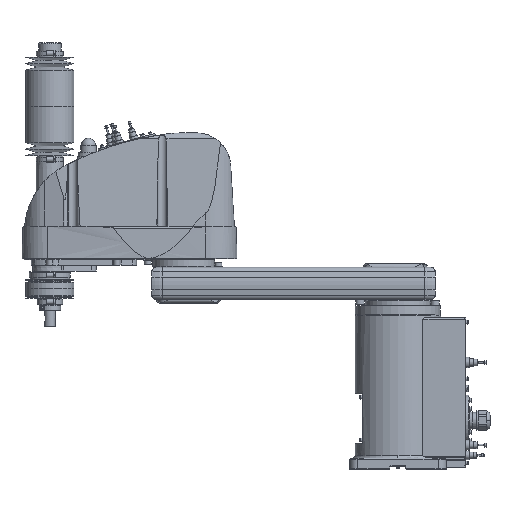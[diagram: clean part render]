
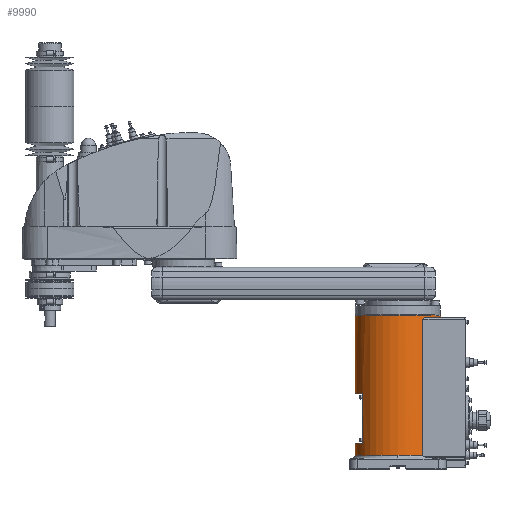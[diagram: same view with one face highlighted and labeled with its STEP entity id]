
A CAD part, top view. The second image highlights one B-rep face of the part: STEP entity #9990.
In plain terms, the highlighted cylindrical face has radius 80 mm (diameter 160 mm), a partial arc.
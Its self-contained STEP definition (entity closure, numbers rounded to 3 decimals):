
#9852 = EDGE_CURVE( '', #17316, #16982, #27794, .T. );
#9870 = EDGE_CURVE( '', #17790, #12426, #27813, .T. );
#9990 = ADVANCED_FACE( '', ( #27945 ), #27946, .T. );
#11948 = VERTEX_POINT( '', #30130 );
#12426 = VERTEX_POINT( '', #30674 );
#12436 = EDGE_CURVE( '', #17844, #26564, #30687, .T. );
#14260 = EDGE_CURVE( '', #22440, #17790, #32719, .T. );
#15766 = EDGE_CURVE( '', #16766, #20496, #34426, .T. );
#16766 = VERTEX_POINT( '', #35557 );
#16982 = VERTEX_POINT( '', #35790 );
#17316 = VERTEX_POINT( '', #36159 );
#17458 = VERTEX_POINT( '', #36319 );
#17790 = VERTEX_POINT( '', #36677 );
#17804 = EDGE_CURVE( '', #11948, #24092, #36692, .T. );
#17844 = VERTEX_POINT( '', #36737 );
#19134 = EDGE_CURVE( '', #17316, #11948, #38177, .T. );
#20074 = EDGE_CURVE( '', #24092, #17458, #39223, .T. );
#20496 = VERTEX_POINT( '', #39697 );
#21316 = EDGE_CURVE( '', #16766, #16982, #40616, .T. );
#22440 = VERTEX_POINT( '', #41890 );
#24092 = VERTEX_POINT( '', #43743 );
#25214 = EDGE_CURVE( '', #22440, #17844, #44986, .T. );
#25444 = EDGE_CURVE( '', #26564, #20496, #45239, .T. );
#26330 = EDGE_CURVE( '', #12426, #17458, #46203, .T. );
#26564 = VERTEX_POINT( '', #46468 );
#27794 = LINE( '', #48183, #48184 );
#27813 = CIRCLE( '', #48208, 80. );
#27945 = FACE_OUTER_BOUND( '', #48384, .T. );
#27946 = CYLINDRICAL_SURFACE( '', #48385, 80. );
#30130 = CARTESIAN_POINT( '', ( -66., -176., 45.211 ) );
#30674 = CARTESIAN_POINT( '', ( -80., -291.5, 0. ) );
#30687 = B_SPLINE_CURVE_WITH_KNOTS( '', 3, ( #52687, #52688, #52689, #52690, #52691, #52692, #52693, #52694, #52695, #52696, #52697, #52698, #52699, #52700, #52701, #52702 ), .UNSPECIFIED., .F., .F., ( 4, 2, 2, 2, 2, 2, 2, 4 ), ( 11.856, 12.522, 13.187, 13.853, 14.518, 16.226, 17.08, 17.933 ), .UNSPECIFIED. );
#32719 = CIRCLE( '', #55851, 80. );
#34426 = LINE( '', #58471, #58472 );
#35557 = CARTESIAN_POINT( '', ( 80., -30., 0. ) );
#35790 = CARTESIAN_POINT( '', ( -80., -30., 0. ) );
#36159 = CARTESIAN_POINT( '', ( -80., -176., 0. ) );
#36319 = CARTESIAN_POINT( '', ( -80., -269., 0. ) );
#36677 = CARTESIAN_POINT( '', ( 0., -291.5, 80. ) );
#36692 = LINE( '', #61757, #61758 );
#36737 = CARTESIAN_POINT( '', ( 46.637, -37.5, 65. ) );
#38177 = CIRCLE( '', #64245, 80. );
#39223 = CIRCLE( '', #65767, 80. );
#39697 = CARTESIAN_POINT( '', ( 80., -34.5, 0. ) );
#40616 = CIRCLE( '', #67989, 80. );
#41890 = CARTESIAN_POINT( '', ( 46.637, -291.5, 65. ) );
#43743 = CARTESIAN_POINT( '', ( -66., -269., 45.211 ) );
#44986 = LINE( '', #74829, #74830 );
#45239 = CIRCLE( '', #75231, 80. );
#46203 = LINE( '', #76771, #76772 );
#46468 = CARTESIAN_POINT( '', ( 50.557, -34.5, 62. ) );
#48183 = CARTESIAN_POINT( '', ( -80., -160.75, 0. ) );
#48184 = VECTOR( '', #78652, 1. );
#48208 = AXIS2_PLACEMENT_3D( '', #78663, #78664, #78665 );
#48384 = EDGE_LOOP( '', ( #78800, #78801, #78802, #78803, #78804, #78805, #78806, #78807, #78808, #78809, #78810, #78811 ) );
#48385 = AXIS2_PLACEMENT_3D( '', #78812, #78813, #78814 );
#52687 = CARTESIAN_POINT( '', ( 46.637, -37.5, 65. ) );
#52688 = CARTESIAN_POINT( '', ( 46.637, -37.278, 65. ) );
#52689 = CARTESIAN_POINT( '', ( 46.671, -37.061, 64.975 ) );
#52690 = CARTESIAN_POINT( '', ( 46.798, -36.648, 64.884 ) );
#52691 = CARTESIAN_POINT( '', ( 46.89, -36.452, 64.818 ) );
#52692 = CARTESIAN_POINT( '', ( 47.114, -36.09, 64.655 ) );
#52693 = CARTESIAN_POINT( '', ( 47.246, -35.923, 64.559 ) );
#52694 = CARTESIAN_POINT( '', ( 47.532, -35.625, 64.349 ) );
#52695 = CARTESIAN_POINT( '', ( 47.685, -35.493, 64.235 ) );
#52696 = CARTESIAN_POINT( '', ( 48.229, -35.087, 63.829 ) );
#52697 = CARTESIAN_POINT( '', ( 48.688, -34.861, 63.481 ) );
#52698 = CARTESIAN_POINT( '', ( 49.396, -34.641, 62.93 ) );
#52699 = CARTESIAN_POINT( '', ( 49.635, -34.587, 62.741 ) );
#52700 = CARTESIAN_POINT( '', ( 50.105, -34.516, 62.366 ) );
#52701 = CARTESIAN_POINT( '', ( 50.336, -34.5, 62.18 ) );
#52702 = CARTESIAN_POINT( '', ( 50.557, -34.5, 62. ) );
#55851 = AXIS2_PLACEMENT_3D( '', #84344, #84345, #84346 );
#58471 = CARTESIAN_POINT( '', ( 80., -160.75, 0. ) );
#58472 = VECTOR( '', #86374, 1. );
#61757 = CARTESIAN_POINT( '', ( -66., -222.5, 45.211 ) );
#61758 = VECTOR( '', #88979, 1. );
#64245 = AXIS2_PLACEMENT_3D( '', #90698, #90699, #90700 );
#65767 = AXIS2_PLACEMENT_3D( '', #91902, #91903, #91904 );
#67989 = AXIS2_PLACEMENT_3D( '', #93598, #93599, #93600 );
#74829 = CARTESIAN_POINT( '', ( 46.637, -164.5, 65. ) );
#74830 = VECTOR( '', #98834, 1. );
#75231 = AXIS2_PLACEMENT_3D( '', #99119, #99120, #99121 );
#76771 = CARTESIAN_POINT( '', ( -80., -160.75, 0. ) );
#76772 = VECTOR( '', #100109, 1. );
#78652 = DIRECTION( '', ( 0., 1., 0. ) );
#78663 = CARTESIAN_POINT( '', ( 0., -291.5, 0. ) );
#78664 = DIRECTION( '', ( 0., -1., 0. ) );
#78665 = DIRECTION( '', ( 1., 0., 0. ) );
#78800 = ORIENTED_EDGE( '', *, *, #15766, .F. );
#78801 = ORIENTED_EDGE( '', *, *, #21316, .T. );
#78802 = ORIENTED_EDGE( '', *, *, #9852, .F. );
#78803 = ORIENTED_EDGE( '', *, *, #19134, .T. );
#78804 = ORIENTED_EDGE( '', *, *, #17804, .T. );
#78805 = ORIENTED_EDGE( '', *, *, #20074, .T. );
#78806 = ORIENTED_EDGE( '', *, *, #26330, .F. );
#78807 = ORIENTED_EDGE( '', *, *, #9870, .F. );
#78808 = ORIENTED_EDGE( '', *, *, #14260, .F. );
#78809 = ORIENTED_EDGE( '', *, *, #25214, .T. );
#78810 = ORIENTED_EDGE( '', *, *, #12436, .T. );
#78811 = ORIENTED_EDGE( '', *, *, #25444, .T. );
#78812 = CARTESIAN_POINT( '', ( 0., -160.75, 0. ) );
#78813 = DIRECTION( '', ( 0., 1., 0. ) );
#78814 = DIRECTION( '', ( 1., 0., 0. ) );
#84344 = CARTESIAN_POINT( '', ( 0., -291.5, 0. ) );
#84345 = DIRECTION( '', ( 0., -1., 0. ) );
#84346 = DIRECTION( '', ( 1., 0., 0. ) );
#86374 = DIRECTION( '', ( 0., -1., 0. ) );
#88979 = DIRECTION( '', ( 0., -1., 0. ) );
#90698 = CARTESIAN_POINT( '', ( 0., -176., 0. ) );
#90699 = DIRECTION( '', ( 0., 1., 0. ) );
#90700 = DIRECTION( '', ( 1., 0., 0. ) );
#91902 = CARTESIAN_POINT( '', ( 0., -269., 0. ) );
#91903 = DIRECTION( '', ( 0., -1., 0. ) );
#91904 = DIRECTION( '', ( 1., 0., 0. ) );
#93598 = CARTESIAN_POINT( '', ( 0., -30., 0. ) );
#93599 = DIRECTION( '', ( 0., -1., 0. ) );
#93600 = DIRECTION( '', ( 1., 0., 0. ) );
#98834 = DIRECTION( '', ( 0., 1., 0. ) );
#99119 = CARTESIAN_POINT( '', ( 0., -34.5, 0. ) );
#99120 = DIRECTION( '', ( 0., 1., 0. ) );
#99121 = DIRECTION( '', ( 1., 0., 0. ) );
#100109 = DIRECTION( '', ( 0., 1., 0. ) );
